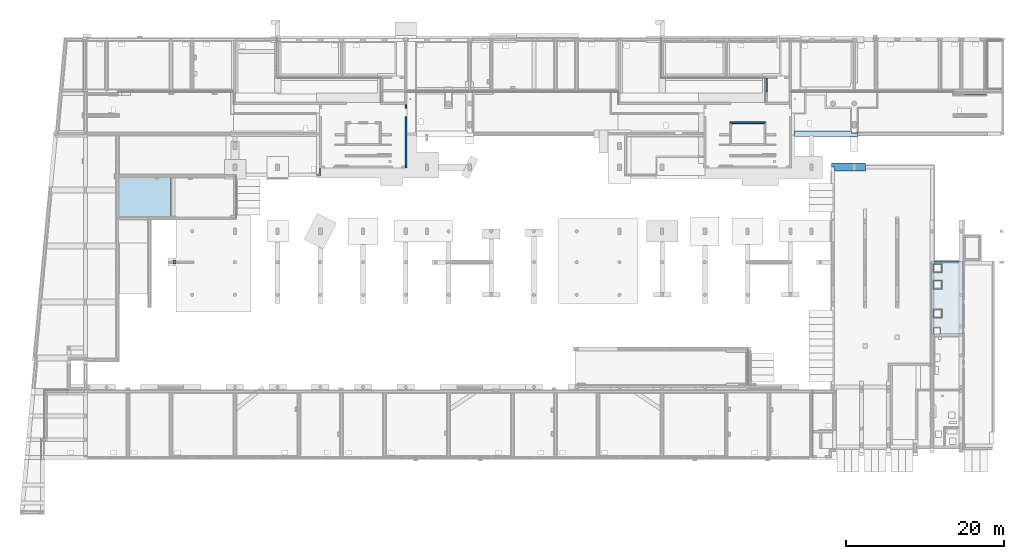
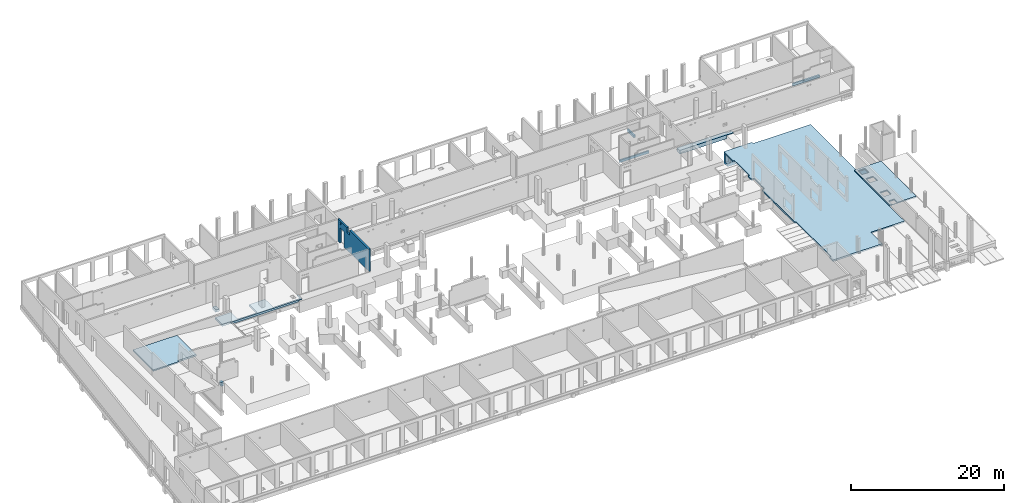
# One storey, part 59 of 60: 6 footings, 4 slabs, 2 walls.
"""IFC2X3 building model written with IfcOpenShell, lengths in millimetres."""

from ifc_helpers import new_model, entity, si_unit, converted_unit, derived_unit, direction, frame, frame_2d, origin, place, context, subcontext, project, spatial, rectangle, extrude, faceted_brep, material, layer, layer_set, type_object, element, save


model = new_model("IFC2X3")

# Units and contexts
model_context = context("Model", 3, precision=0.01, world=origin(), true_north=direction((6.12303176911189e-17, 1.0)))
body_context = subcontext(model_context, "Body", "Model", "MODEL_VIEW")
ifc_project = project(units=[si_unit("LENGTHUNIT", "METRE", prefix="MILLI"), si_unit("AREAUNIT", "SQUARE_METRE"), si_unit("VOLUMEUNIT", "CUBIC_METRE"), converted_unit("PLANEANGLEUNIT", "DEGREE", entity("IfcRatioMeasure", 0.0174532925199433), si_unit("PLANEANGLEUNIT", "RADIAN"), dimensions=[0, 0, 0, 0, 0, 0, 0]), si_unit("MASSUNIT", "GRAM", prefix="KILO"), derived_unit("MASSDENSITYUNIT", [(si_unit("MASSUNIT", "GRAM", prefix="KILO"), 1), (si_unit("LENGTHUNIT", "METRE"), -3)]), si_unit("TIMEUNIT", "SECOND"), si_unit("FREQUENCYUNIT", "HERTZ"), si_unit("THERMODYNAMICTEMPERATUREUNIT", "DEGREE_CELSIUS"), derived_unit("THERMALTRANSMITTANCEUNIT", [(si_unit("MASSUNIT", "GRAM", prefix="KILO"), 1), (si_unit("THERMODYNAMICTEMPERATUREUNIT", "KELVIN"), -1), (si_unit("TIMEUNIT", "SECOND"), -3)]), derived_unit("VOLUMETRICFLOWRATEUNIT", [(si_unit("LENGTHUNIT", "METRE"), 3), (si_unit("TIMEUNIT", "SECOND"), -1)]), si_unit("ELECTRICCURRENTUNIT", "AMPERE"), si_unit("ELECTRICVOLTAGEUNIT", "VOLT"), si_unit("POWERUNIT", "WATT"), si_unit("FORCEUNIT", "NEWTON", prefix="KILO"), si_unit("ILLUMINANCEUNIT", "LUX"), si_unit("LUMINOUSFLUXUNIT", "LUMEN"), si_unit("LUMINOUSINTENSITYUNIT", "CANDELA"), derived_unit("USERDEFINED", [(si_unit("MASSUNIT", "GRAM", prefix="KILO"), -1), (si_unit("LENGTHUNIT", "METRE"), -2), (si_unit("TIMEUNIT", "SECOND"), 3), (si_unit("LUMINOUSFLUXUNIT", "LUMEN"), 1)]), derived_unit("LINEARVELOCITYUNIT", [(si_unit("LENGTHUNIT", "METRE"), 1), (si_unit("TIMEUNIT", "SECOND"), -1)]), si_unit("PRESSUREUNIT", "PASCAL"), derived_unit("USERDEFINED", [(si_unit("LENGTHUNIT", "METRE"), -2), (si_unit("MASSUNIT", "GRAM", prefix="KILO"), 1), (si_unit("TIMEUNIT", "SECOND"), -2)])], contexts=[model_context])

# Site, building, storey
site_placement = place(None, origin())
site = spatial("IfcSite", under=ifc_project, at=site_placement, Name="Default", CompositionType="ELEMENT")
building_placement = place(site_placement, origin())
building = spatial("IfcBuilding", under=site, at=building_placement, Name="niet gebruiken", CompositionType="ELEMENT")
storey_placement = place(building_placement, origin())
storey = spatial("IfcBuildingStorey", under=building, at=storey_placement, Name="00 begane grond", CompositionType="ELEMENT", Elevation=0.0)

# Footings
ifc_material = material(Name="NLRS_f2_beton ihwg")
footing_1_placement = place(storey_placement, frame((19200.0, 24726.0, -800.0)))
element("IfcFooting", 1, at=footing_1_placement, inside=storey, material=ifc_material, Name="NLRS_16.12_SF_WPB_funderingsbalk ihwg recht_gen:500x600", ObjectType="NLRS_16.12_SF_WPB_funderingsbalk ihwg recht_gen:500x600", PredefinedType="FOOTING_BEAM", context=body_context, shape_type="Brep", body=[
    faceted_brep([(0.0, 500.0, 600.0), (0.0, 500.0, 0.0), (0.0, 0.0, 0.0), (0.0, 0.0, 600.0), (350.0, 500.0, 600.0), (350.0, 0.0, 600.0), (350.0, 0.0, 0.0), (350.0, 500.0, 0.0)], [[[0, 1, 2, 3]], [[4, 5, 6, 7]], [[1, 0, 4, 7]], [[2, 1, 7, 6]], [[3, 2, 6, 5]], [[0, 3, 5, 4]]]),
])
footing_2_placement = place(storey_placement, frame((97700.0, 40836.0, -1002.0)))
element("IfcFooting", 2, at=footing_2_placement, inside=storey, material=ifc_material, Name="NLRS_16.12_SF_WPB_funderingsbalk ihwg recht_gen:700x600", ObjectType="NLRS_16.12_SF_WPB_funderingsbalk ihwg recht_gen:700x600", PredefinedType="FOOTING_BEAM", context=body_context, shape_type="Brep", body=[
    faceted_brep([(0.0, 700.0, 0.0), (0.0, 700.0, 600.0), (7075.0, 700.0, 600.0), (7225.0, 700.0, 600.0), (7225.0, 700.0, 510.0), (7075.0, 700.0, 510.0), (7075.0, 700.0, 0.0), (0.0, 0.0, 0.0), (7075.0, 0.0, 0.0), (8075.0, 0.0, 600.0), (2450.0, 0.0, 600.0), (1950.0, 0.0, 600.0), (0.0, 0.0, 600.0), (7075.0, 0.0, 510.0), (8075.0, 0.0, 510.0), (8075.0, 100.0, 600.0), (8075.0, 600.0, 600.0), (7925.0, 600.0, 600.0), (7925.0, 495.0, 600.0), (7925.0, 475.0, 600.0), (7225.0, 475.0, 600.0), (7225.0, 495.0, 600.0), (0.0, 225.0, 600.0), (7225.0, 475.0, 510.0), (7925.0, 475.0, 510.0), (7925.0, 600.0, 510.0), (8075.0, 600.0, 510.0)], [[[0, 1, 2, 3, 4, 5, 6]], [[7, 0, 6, 8]], [[9, 10, 11, 12, 7, 8, 13, 14]], [[12, 11, 10, 9, 15, 16, 17, 18, 19, 20, 21, 3, 2, 1, 22]], [[7, 12, 22, 1, 0]], [[13, 5, 4, 23, 24, 25, 26, 14]], [[6, 5, 13, 8]], [[24, 19, 18, 17, 25]], [[19, 24, 23, 20]], [[20, 23, 4, 3, 21]], [[17, 16, 26, 25]], [[9, 14, 26, 16, 15]]]),
])
footing_3_placement = place(storey_placement, frame((117860.0, 46141.0, -492.0)))
element("IfcFooting", 3, at=footing_3_placement, inside=storey, material=ifc_material, Name="NLRS_16.12_SF_WPB_opstort ihwg recht_gen:250x422", ObjectType="NLRS_16.12_SF_WPB_opstort ihwg recht_gen:250x422", PredefinedType="FOOTING_BEAM", context=body_context, shape_type="Brep", body=[
    faceted_brep([(0.0, 0.0, 422.0), (0.0, 250.0, 422.0), (0.0, 250.0, 90.0), (0.0, 250.0, 0.0), (0.0, 35.0, 0.0), (0.0, 35.0, 90.0), (0.0, 0.0, 90.0), (4060.0, 250.0, 422.0), (4060.0, 0.0, 422.0), (4060.0, 0.0, 90.0), (4060.0, 250.0, 90.0), (4040.0, 250.0, 90.0), (4040.0, 250.0, 0.0), (4040.0, 35.0, 0.0), (4040.0, 35.0, 90.0)], [[[0, 1, 2, 3, 4, 5, 6]], [[7, 8, 9, 10]], [[1, 7, 10, 11, 12, 3, 2]], [[4, 3, 12, 13]], [[8, 0, 6, 9]], [[1, 0, 8, 7]], [[5, 14, 11, 10, 9, 6]], [[14, 5, 4, 13]], [[14, 13, 12, 11]]]),
])
footing_4_placement = place(storey_placement, frame((89575.0, 42496.0, -550.0)))
element("IfcFooting", 4, at=footing_4_placement, inside=storey, material=ifc_material, Name="NLRS_16.12_SF_WPB_opstort ihwg recht_gen:200x390", ObjectType="NLRS_16.12_SF_WPB_opstort ihwg recht_gen:200x390", PredefinedType="FOOTING_BEAM", context=body_context, shape_type="Brep", body=[
    faceted_brep([(0.0, 200.0, 390.0), (0.0, 200.0, 0.0), (0.0, 0.0, 0.0), (0.0, 0.0, 390.0), (4450.0, 200.0, 390.0), (4450.0, 0.0, 390.0), (4450.0, 0.0, 0.0), (4450.0, 200.0, 0.0)], [[[0, 1, 2, 3]], [[4, 5, 6, 7]], [[1, 0, 4, 7]], [[2, 1, 7, 6]], [[3, 2, 6, 5]], [[0, 3, 5, 4]]]),
])
footing_5_placement = place(storey_placement, frame((94025.0, 46496.0, -550.0)))
element("IfcFooting", 5, at=footing_5_placement, inside=storey, material=ifc_material, Name="NLRS_16.12_SF_WPB_opstort ihwg recht_gen:250x390", ObjectType="NLRS_16.12_SF_WPB_opstort ihwg recht_gen:250x390", PredefinedType="FOOTING_BEAM", context=body_context, shape_type="Brep", body=[
    faceted_brep([(250.0, 1730.0, 390.0), (250.0, 1730.0, 0.0), (0.0, 1730.0, 0.0), (0.0, 1730.0, 390.0), (250.0, 0.0, 390.0), (0.0, 0.0, 390.0), (0.0, 0.0, 0.0), (250.0, 0.0, 0.0)], [[[0, 1, 2, 3]], [[4, 5, 6, 7]], [[1, 0, 4, 7]], [[2, 1, 7, 6]], [[3, 2, 6, 5]], [[0, 3, 5, 4]]]),
])
footing_6_placement = place(storey_placement, frame((102400.0, 36481.0, -2000.0)))
element("IfcFooting", 6, at=footing_6_placement, inside=storey, material=ifc_material, Name="NLRS_16.12_SF_WPB_funderingsbalk ihwg recht_gen:1000x1800", ObjectType="NLRS_16.12_SF_WPB_funderingsbalk ihwg recht_gen:1000x1800", PredefinedType="FOOTING_BEAM", context=body_context, shape_type="Brep", body=[
    faceted_brep([(4275.0, 1.42332055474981e-08, 0.0), (4275.0, 1000.0, 0.0), (4275.0, 1000.0, 1550.0), (4275.0, 700.0, 1550.0), (4275.0, 300.0, 1550.0), (4275.0, 1.42332055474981e-08, 1550.0), (4275.0, 1.42332055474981e-08, 400.0), (4275.0, 1.42332055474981e-08, 150.0), (0.0, 1000.0, 1550.0), (0.0, 1000.0, 0.0), (3.30924194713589e-09, 0.0, 0.0), (3.30924194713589e-09, 0.0, 150.0), (3.30924194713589e-09, 0.0, 400.0), (1.64595803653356e-09, 500.0, 400.0), (1.64595803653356e-09, 500.0, 1550.0), (400.0, 1.33409230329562e-09, 1550.0), (400.0, 1.33409230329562e-09, 400.0), (400.0, 500.0, 1550.0), (400.0, 500.0, 400.0)], [[[0, 1, 2, 3, 4, 5, 6, 7]], [[8, 9, 10, 11, 12, 13, 14]], [[10, 0, 7, 6, 5, 15, 16, 12, 11]], [[1, 0, 10, 9]], [[2, 1, 9, 8]], [[5, 4, 3, 2, 8, 14, 17, 15]], [[17, 18, 16, 15]], [[18, 13, 12, 16]], [[18, 17, 14, 13]]]),
])

# Slabs
slab_1_placement = place(storey_placement, origin())
element("IfcSlab", 7, at=slab_1_placement, inside=storey, material=ifc_material, Name="Floor:NLRS_23.21_FL_breedplaat d=70/250_opgeruwd_schil apart_gen", ObjectType="Floor:NLRS_23.21_FL_breedplaat d=70/250_opgeruwd_schil apart_gen", PredefinedType="FLOOR", context=body_context, shape_type="Brep", body=[
    faceted_brep([(12275.0, 35756.0, 550.0), (18900.0, 35756.0, 550.0), (18900.0, 35736.0, 550.0), (12295.0, 35736.0, 550.0), (12295.0, 30656.0, 550.0), (16055.0, 30656.0, 550.0), (16055.0, 30696.0, 550.0), (18900.0, 30696.0, 550.0), (18900.0, 30676.0, 550.0), (16075.0, 30676.0, 550.0), (16075.0, 30446.0, 550.0), (12275.0, 30446.0, 550.0), (18900.0, 35756.0, 800.0), (12275.0, 35756.0, 800.0), (12275.0, 30426.0, 800.0), (16075.0, 30426.0, 800.0), (16075.0, 30676.0, 800.0), (18900.0, 30676.0, 800.0), (18900.0, 30696.0, 620.0), (18900.0, 35736.0, 620.0), (12275.0, 30426.0, 619.109367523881), (16075.0, 30426.0, 619.109367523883), (12275.0, 30446.0, 617.109430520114), (16075.0, 30446.0, 617.109430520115), (12295.0, 30656.0, 620.0), (12295.0, 35736.0, 620.0), (16055.0, 30696.0, 620.0), (16055.0, 30656.0, 620.0)], [[[0, 1, 2, 3, 4, 5, 6, 7, 8, 9, 10, 11]], [[12, 13, 14, 15, 16, 17]], [[1, 0, 13, 12]], [[12, 17, 8, 7, 18, 19, 2, 1]], [[15, 14, 20, 21]], [[14, 13, 0, 11, 22, 20]], [[9, 8, 17, 16]], [[16, 15, 21, 23, 10, 9]], [[24, 25, 19, 18, 26, 27]], [[19, 25, 3, 2]], [[24, 27, 5, 4]], [[25, 24, 4, 3]], [[26, 18, 7, 6]], [[27, 26, 6, 5]], [[22, 23, 21, 20]], [[23, 22, 11, 10]]]),
])
slab_2_placement = place(storey_placement, origin())
element("IfcSlab", 8, at=slab_2_placement, inside=storey, Name="Floor:NLRS_23.21_FL_breedplaat d=70/250_schil apart_gen", ObjectType="Floor:NLRS_23.21_FL_breedplaat d=70/250_schil apart_gen", PredefinedType="FLOOR", context=body_context, shape_type="Brep", body=[
    faceted_brep([(106675.0, 37181.0, -450.0), (115325.0, 37181.0, -450.0), (115325.0, 36781.0, -450.0), (115325.0, 30336.0, -450.0), (115325.0, 25101.0, -450.0), (114950.0, 25101.0, -450.0), (114950.0, 24426.0, -450.0), (114950.0, 22976.0, -450.0), (114950.0, 19446.0, -450.0), (114950.0, 17996.0, -450.0), (114950.0, 11971.0, -450.0), (114825.0, 11971.0, -450.0), (113175.000370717, 11971.0, -450.0), (109850.0, 11971.0, -450.0), (109850.0, 8946.0, -450.0), (109350.000370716, 8946.0, -450.0), (106450.000370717, 8946.0, -450.0), (105950.000370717, 8946.0, -450.0), (103050.0, 8946.0, -450.0), (102400.0, 8946.0, -450.0), (102400.0, 9446.0, -450.0), (102400.0, 9850.0, -450.0), (102600.0, 9850.0, -450.0), (102600.0, 18926.0, -450.0), (102400.0, 18926.0, -450.0), (102400.0, 27531.0, -450.0), (102780.0, 27531.0, -450.0), (102780.0, 9426.0, -450.0), (105960.000370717, 9426.0, -450.0), (105960.000370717, 9936.0, -450.0), (106440.000370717, 9936.0, -450.0), (106440.000370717, 9426.0, -450.0), (109360.000370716, 9426.0, -450.0), (109360.000370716, 9936.0, -450.0), (109620.000370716, 9936.0, -450.0), (109620.000370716, 12201.0, -450.0), (114845.0, 12201.0, -450.0), (114845.0, 30316.0, -450.0), (114945.0, 30316.0, -450.0), (114945.0, 36801.0, -450.0), (106655.0, 36801.0, -450.0), (106655.0, 36501.0, -450.0), (102780.0, 36501.0, -450.0), (102780.0, 30231.0, -450.0), (102400.0, 30231.0, -450.0), (102400.0, 31156.0, -450.0), (102600.0, 31156.0, -450.0), (102600.0, 35056.0, -450.0), (102400.0, 35056.0, -450.0), (102400.0, 36981.0, -450.0), (102400.0, 37481.0, -450.0), (106675.0, 37481.0, -450.0), (115325.0, 37181.0, -200.0), (106675.0, 37181.0, -200.0), (106675.0, 37481.0, -200.0), (102400.0, 37481.0, -200.0), (102400.0, 35056.0, -200.0), (102600.0, 35056.0, -200.0), (102600.0, 31156.0, -200.0), (102400.0, 31156.0, -200.0), (102400.0, 30231.0, -200.0), (102800.0, 30231.0, -200.0), (102800.0, 27531.0, -200.0), (102400.0, 27531.0, -200.0), (102400.0, 25276.0, -200.0), (102400.0, 24676.0, -200.0), (102400.0, 18926.0, -200.0), (102600.0, 18926.0, -200.0), (102600.0, 9850.0, -200.0), (102400.0, 9850.0, -200.0), (102400.0, 8946.0, -200.0), (102675.0, 8946.0, -200.0), (103050.0, 8946.0, -200.0), (109850.0, 8946.0, -200.0), (109850.0, 11971.0, -200.0), (113175.000370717, 11971.0, -200.0), (114950.0, 11971.0, -200.0), (114950.0, 25101.0, -200.0), (115325.0, 25101.0, -200.0), (115325.0, 25101.0, -250.0), (114950.0, 25101.0, -250.0), (114950.0, 11971.0, -300.0), (102800.0, 27531.0, -380.0), (102780.0, 27531.0, -380.0), (102800.0, 30231.0, -380.0), (102780.0, 30231.0, -380.0), (106655.0, 36501.0, -380.0), (106655.0, 36801.0, -380.0), (114945.0, 36801.0, -380.0), (114945.0, 30316.0, -380.0), (114845.0, 30316.0, -380.0), (114845.0, 12201.0, -380.0), (109620.000370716, 12201.0, -380.0), (109620.000370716, 9936.0, -380.0), (109360.000370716, 9936.0, -380.0), (109360.000370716, 9426.0, -380.0), (106440.000370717, 9426.0, -380.0), (106440.000370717, 9936.0, -380.0), (105960.000370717, 9936.0, -380.0), (105960.000370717, 9426.0, -380.0), (102780.0, 9426.0, -380.0), (102780.0, 36501.0, -380.0), (106470.0, 31706.0, -380.0), (106470.0, 19196.0, -380.0), (106830.0, 19196.0, -380.0), (106830.0, 31706.0, -380.0), (110520.0, 30656.0, -380.0), (110520.0, 19196.0, -380.0), (110880.0, 19196.0, -380.0), (110880.0, 30656.0, -380.0), (106350.0, 14091.0, -380.0), (106950.0, 14091.0, -380.0), (106950.0, 14691.0, -380.0), (106350.0, 14691.0, -380.0), (111000.0, 15176.0, -380.0), (111000.0, 15776.0, -380.0), (110400.0, 15776.0, -380.0), (110400.0, 15176.0, -380.0), (106470.0, 19196.0, -450.0), (106830.0, 19196.0, -450.0), (106830.0, 31706.0, -450.0), (106470.0, 31706.0, -450.0), (110520.0, 19196.0, -450.0), (110880.0, 19196.0, -450.0), (110880.0, 30656.0, -450.0), (110520.0, 30656.0, -450.0), (106950.0, 14091.0, -450.0), (106950.0, 14691.0, -450.0), (106350.0, 14691.0, -450.0), (106350.0, 14091.0, -450.0), (111000.0, 15776.0, -450.0), (110400.0, 15776.0, -450.0), (110400.0, 15176.0, -450.0), (111000.0, 15176.0, -450.0)], [[[0, 1, 2, 3, 4, 5, 6, 7, 8, 9, 10, 11, 12, 13, 14, 15, 16, 17, 18, 19, 20, 21, 22, 23, 24, 25, 26, 27, 28, 29, 30, 31, 32, 33, 34, 35, 36, 37, 38, 39, 40, 41, 42, 43, 44, 45, 46, 47, 48, 49, 50, 51]], [[52, 53, 54, 55, 56, 57, 58, 59, 60, 61, 62, 63, 64, 65, 66, 67, 68, 69, 70, 71, 72, 73, 74, 75, 76, 77, 78]], [[1, 0, 53, 52]], [[4, 3, 2, 1, 52, 78, 79]], [[5, 4, 79, 78, 77, 80]], [[19, 18, 17, 16, 15, 14, 73, 72, 71, 70]], [[13, 12, 11, 10, 81, 76, 75, 74]], [[14, 13, 74, 73]], [[45, 44, 60, 59]], [[46, 45, 59, 58]], [[21, 20, 19, 70, 69]], [[22, 21, 69, 68]], [[23, 22, 68, 67]], [[24, 23, 67, 66]], [[47, 46, 58, 57]], [[48, 47, 57, 56]], [[25, 24, 66, 65, 64, 63]], [[63, 62, 82, 83, 26, 25]], [[62, 61, 84, 82]], [[61, 60, 44, 43, 85, 84]], [[51, 50, 55, 54]], [[0, 51, 54, 53]], [[50, 49, 48, 56, 55]], [[86, 87, 88, 89, 90, 91, 92, 93, 94, 95, 96, 97, 98, 99, 100, 83, 82, 84, 85, 101], [102, 103, 104, 105], [106, 107, 108, 109], [110, 111, 112, 113], [114, 115, 116, 117]], [[88, 87, 40, 39]], [[100, 99, 28, 27]], [[92, 91, 36, 35]], [[93, 92, 35, 34]], [[86, 101, 42, 41]], [[87, 86, 41, 40]], [[100, 27, 26, 83]], [[91, 90, 37, 36]], [[104, 103, 118, 119]], [[105, 104, 119, 120]], [[102, 105, 120, 121]], [[103, 102, 121, 118]], [[108, 107, 122, 123]], [[109, 108, 123, 124]], [[106, 109, 124, 125]], [[107, 106, 125, 122]], [[112, 111, 126, 127]], [[113, 112, 127, 128]], [[110, 113, 128, 129]], [[111, 110, 129, 126]], [[116, 115, 130, 131]], [[117, 116, 131, 132]], [[114, 117, 132, 133]], [[115, 114, 133, 130]], [[10, 9, 8, 7, 6, 5, 80, 77, 76, 81]], [[89, 88, 39, 38]], [[90, 89, 38, 37]], [[96, 95, 32, 31]], [[97, 96, 31, 30]], [[98, 97, 30, 29]], [[99, 98, 29, 28]], [[94, 93, 34, 33]], [[95, 94, 33, 32]], [[42, 101, 85, 43]], [[119, 118, 121, 120]], [[127, 126, 129, 128]], [[131, 130, 133, 132]], [[123, 122, 125, 124]]]),
])
slab_3_placement = place(storey_placement, origin())
element("IfcSlab", 9, at=slab_3_placement, inside=storey, material=ifc_material, Name="Floor:NLRS_13.22_FL_beton ihwg d=332_gen", ObjectType="Floor:NLRS_13.22_FL_beton ihwg d=332_gen", PredefinedType="FLOOR", context=body_context, shape_type="SolidModel", body=[
    extrude(rectangle(XDim=539.999999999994, YDim=890.000000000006, at=frame_2d((-2.1600499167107e-12, 0.0), x_axis=(1.0, 0.0))), frame((27025.0, 39656.0, -402.0), z_axis=(0.0, 0.0, 1.0), x_axis=(-1.0, 0.0, 0.0)), (0.0, 0.0, 1.0), 332.0),
    faceted_brep([(28225.0, 36106.0, -70.0), (28225.0, 37821.0, -70.0), (25860.0, 37821.0, -70.0), (25860.0, 36006.0, -70.0), (27150.0, 36006.0, -70.0), (27150.0, 35856.0, -70.0), (37825.0, 35856.0, -70.0), (37825.0, 36856.0, -70.0), (37675.0, 36856.0, -70.0), (37675.0, 36106.0, -70.0), (33600.0, 36106.0, -70.0), (33600.0, 38181.0, -70.0), (31200.0, 38181.0, -70.0), (31200.0, 36106.0, -70.0), (28225.0, 36106.0, -402.0), (28225.0, 37821.0, -402.0), (31200.0, 36106.0, -402.0), (31200.0, 38181.0, -402.0), (33600.0, 38181.0, -402.0), (33600.0, 36106.0, -402.0), (37675.0, 36106.0, -200.0), (37300.0, 36106.0, -200.0), (37300.0, 36106.0, -402.0), (37825.0, 35856.0, -200.0), (37825.0, 36856.0, -200.0), (27150.0, 35856.0, -402.0), (37300.0, 35856.0, -402.0), (37300.0, 35856.0, -200.0), (27150.0, 36006.0, -402.0), (27150.0, 36006.0, -372.0), (25860.0, 36006.0, -402.0), (26850.0, 36006.0, -402.0), (25860.0, 37821.0, -402.0), (37675.0, 36856.0, -200.0), (37675.0, 36126.0, -200.0)], [[[0, 1, 2, 3, 4, 5, 6, 7, 8, 9, 10, 11, 12, 13]], [[14, 15, 1, 0]], [[16, 14, 0, 13]], [[17, 16, 13, 12]], [[18, 17, 12, 11]], [[19, 18, 11, 10]], [[10, 9, 20, 21, 22, 19]], [[7, 6, 23, 24]], [[6, 5, 25, 26, 27, 23]], [[28, 25, 5, 4, 29]], [[30, 31, 28, 29, 4, 3]], [[32, 30, 3, 2]], [[15, 32, 2, 1]], [[9, 8, 33, 34, 20]], [[8, 7, 24, 33]], [[27, 21, 20, 34, 33, 24, 23]], [[21, 27, 26, 22]], [[15, 14, 16, 17, 18, 19, 22, 26, 25, 28, 31, 30, 32]]]),
])
slab_4_placement = place(storey_placement, origin())
element("IfcSlab", 10, at=slab_4_placement, inside=storey, Name="Floor:NLRS_23.21_FL_breedplaat d=70/250_schil apart_gen", ObjectType="Floor:NLRS_23.21_FL_breedplaat d=70/250_schil apart_gen", PredefinedType="FLOOR", context=body_context, shape_type="Brep", body=[
    faceted_brep([(119000.0, 25101.0, -250.0), (119000.0, 24976.0, -250.0), (119000.0, 15876.0, -250.0), (118520.0, 15876.0, -250.0), (118520.0, 24871.0, -250.0), (115305.0, 24871.0, -250.0), (115305.0, 15876.0, -250.0), (114950.0, 15876.0, -250.0), (114950.0, 25101.0, -250.0), (115325.0, 25101.0, -250.0), (118500.0, 25101.0, -250.0), (119000.0, 15876.0, 0.0), (119000.0, 25101.0, 0.0), (114950.0, 25101.0, 0.0), (114950.0, 15876.0, 0.0), (115285.0, 15876.0, 0.0), (115285.0, 16736.0, 0.0), (116165.0, 16736.0, 0.0), (116165.0, 15876.0, 0.0), (116365.0, 17936.0, 0.0), (115285.0, 17936.0, 0.0), (115285.0, 19016.0, 0.0), (116365.0, 19016.0, 0.0), (116365.0, 21561.0, 0.0), (115285.0, 21561.0, 0.0), (115285.0, 22641.0, 0.0), (116365.0, 22641.0, 0.0), (116365.0, 23661.0, 0.0), (115285.0, 23661.0, 0.0), (115285.0, 24741.0, 0.0), (116365.0, 24741.0, 0.0), (116165.0, 15876.0, -40.0), (115285.0, 15876.0, -40.0), (114950.0, 15876.0, -200.0), (115305.0, 15876.0, -180.0), (118520.0, 15876.0, -180.0), (114950.0, 25101.0, -200.0), (118520.0, 24871.0, -180.0), (115305.0, 24871.0, -180.0), (116125.0, 15896.0, -180.0), (116125.0, 16696.0, -180.0), (115325.0, 16696.0, -180.0), (115325.0, 15896.0, -180.0), (115325.0, 17976.0, -180.0), (116325.0, 17976.0, -180.0), (116325.0, 18976.0, -180.0), (115325.0, 18976.0, -180.0), (115325.0, 21601.0, -180.0), (116325.0, 21601.0, -180.0), (116325.0, 22601.0, -180.0), (115325.0, 22601.0, -180.0), (115325.0, 23701.0, -180.0), (116325.0, 23701.0, -180.0), (116325.0, 24701.0, -180.0), (115325.0, 24701.0, -180.0), (115325.0, 15896.0, -40.0), (116125.0, 15896.0, -40.0), (116125.0, 16696.0, -40.0), (115325.0, 16696.0, -40.0), (115325.0, 17976.0, -40.0), (116325.0, 17976.0, -40.0), (116325.0, 18976.0, -40.0), (115325.0, 18976.0, -40.0), (115325.0, 21601.0, -40.0), (116325.0, 21601.0, -40.0), (116325.0, 22601.0, -40.0), (115325.0, 22601.0, -40.0), (115325.0, 23701.0, -40.0), (116325.0, 23701.0, -40.0), (116325.0, 24701.0, -40.0), (115325.0, 24701.0, -40.0), (115285.0, 17936.0, -40.0), (116365.0, 17936.0, -40.0), (116365.0, 19016.0, -40.0), (115285.0, 19016.0, -40.0), (115285.0, 21561.0, -40.0), (116365.0, 21561.0, -40.0), (116365.0, 22641.0, -40.0), (115285.0, 22641.0, -40.0), (115285.0, 23661.0, -40.0), (116365.0, 23661.0, -40.0), (116365.0, 24741.0, -40.0), (115285.0, 24741.0, -40.0), (116165.0, 16736.0, -40.0), (115285.0, 16736.0, -40.0)], [[[0, 1, 2, 3, 4, 5, 6, 7, 8, 9, 10]], [[11, 12, 13, 14, 15, 16, 17, 18], [19, 20, 21, 22], [23, 24, 25, 26], [27, 28, 29, 30]], [[2, 1, 0, 12, 11]], [[2, 11, 18, 31, 32, 15, 14, 33, 7, 6, 34, 35, 3]], [[8, 7, 33, 14, 13, 36]], [[13, 12, 0, 10, 9, 8, 36]], [[37, 35, 34, 38], [39, 40, 41, 42], [43, 44, 45, 46], [47, 48, 49, 50], [51, 52, 53, 54]], [[38, 34, 6, 5]], [[37, 38, 5, 4]], [[35, 37, 4, 3]], [[39, 42, 55, 56]], [[40, 39, 56, 57]], [[41, 40, 57, 58]], [[42, 41, 58, 55]], [[44, 43, 59, 60]], [[45, 44, 60, 61]], [[46, 45, 61, 62]], [[43, 46, 62, 59]], [[48, 47, 63, 64]], [[49, 48, 64, 65]], [[50, 49, 65, 66]], [[47, 50, 66, 63]], [[52, 51, 67, 68]], [[53, 52, 68, 69]], [[54, 53, 69, 70]], [[51, 54, 70, 67]], [[71, 72, 73, 74], [60, 59, 62, 61]], [[72, 71, 20, 19]], [[73, 72, 19, 22]], [[74, 73, 22, 21]], [[71, 74, 21, 20]], [[75, 76, 77, 78], [64, 63, 66, 65]], [[76, 75, 24, 23]], [[77, 76, 23, 26]], [[78, 77, 26, 25]], [[75, 78, 25, 24]], [[79, 80, 81, 82], [68, 67, 70, 69]], [[80, 79, 28, 27]], [[81, 80, 27, 30]], [[82, 81, 30, 29]], [[79, 82, 29, 28]], [[83, 84, 32, 31], [56, 55, 58, 57]], [[17, 83, 31, 18]], [[84, 83, 17, 16]], [[84, 16, 15, 32]]]),
])

# Walls
ifc_layer_1 = layer(ifc_material, 250.0)
ifc_layer_set_1 = layer_set([ifc_layer_1], Name="Basic Wall:NLRS_22.21_WA_beton ihwg d=250_gen")
wall_type_1 = type_object("IfcWallType", Name="Basic Wall:NLRS_22.21_WA_beton ihwg d=250_gen", PredefinedType="STANDARD", material=ifc_layer_set_1)
wall_1_placement = place(storey_placement, frame((48600.0, 44906.0, -90.0), z_axis=(0.0, 0.0, 1.0), x_axis=(0.0, -1.0, 0.0)))
element("IfcWall", 11, at=wall_1_placement, inside=storey, type_object=wall_type_1, Name="Basic Wall:NLRS_22.21_WA_beton ihwg d=250_gen", ObjectType="Basic Wall:NLRS_22.21_WA_beton ihwg d=250_gen", context=body_context, shape_type="Brep", body=[
    faceted_brep([(0.0, -125.0, 0.0), (495.0, -125.0, 0.0), (495.0, -125.0, 2470.0), (1520.0, -125.0, 2470.0), (1520.0, -125.0, 0.0), (7800.0, -125.0, 0.0), (8050.0, -125.0, 0.0), (8050.0, -125.0, 2950.0), (8050.0, -125.0, 3560.0), (7800.0, -125.0, 3560.0), (3020.0, -125.0, 3560.0), (3020.0, -125.0, 2790.0), (2320.0, -125.0, 2790.0), (2320.0, -125.0, 3560.0), (0.0, -125.0, 3560.0), (0.0, -125.0, 3440.0), (475.0, -125.0, 3340.0), (865.0, -125.0, 3340.0), (865.0, -125.0, 3200.0), (475.0, -125.0, 3200.0), (500.0, -125.0, 3070.0), (840.0, -125.0, 3070.0), (840.0, -125.0, 2970.0), (500.0, -125.0, 2970.0), (495.0, 125.0, 0.0), (0.0, 125.0, 0.0), (0.0, 125.0, 3440.0), (0.0, 125.0, 3560.0), (2320.0, 125.0, 3560.0), (2320.0, 125.0, 2790.0), (3020.0, 125.0, 2790.0), (3020.0, 125.0, 3560.0), (8050.0, 125.0, 3560.0), (8050.0, 125.0, 2950.0), (8050.0, 125.0, 0.0), (1520.0, 125.0, 0.0), (1520.0, 125.0, 2470.0), (495.0, 125.0, 2470.0), (865.0, 125.0, 3340.0), (475.0, 125.0, 3340.0), (475.0, 125.0, 3200.0), (865.0, 125.0, 3200.0), (840.0, 125.0, 3070.0), (500.0, 125.0, 3070.0), (500.0, 125.0, 2970.0), (840.0, 125.0, 2970.0), (0.0, -105.0, 3560.0)], [[[0, 1, 2, 3, 4, 5, 6, 7, 8, 9, 10, 11, 12, 13, 14, 15], [16, 17, 18, 19], [20, 21, 22, 23]], [[24, 25, 26, 27, 28, 29, 30, 31, 32, 33, 34, 35, 36, 37], [38, 39, 40, 41], [42, 43, 44, 45]], [[0, 25, 24, 1]], [[25, 0, 15, 14, 46, 27, 26]], [[37, 2, 1, 24]], [[2, 37, 36, 3]], [[3, 36, 35, 4]], [[6, 34, 33, 32, 8, 7]], [[14, 13, 28, 27, 46]], [[16, 39, 38, 17]], [[18, 41, 40, 19]], [[17, 38, 41, 18]], [[39, 16, 19, 40]], [[11, 30, 29, 12]], [[30, 11, 10, 31]], [[12, 29, 28, 13]], [[20, 43, 42, 21]], [[22, 45, 44, 23]], [[21, 42, 45, 22]], [[43, 20, 23, 44]], [[10, 9, 8, 32, 31]], [[6, 5, 4, 35, 34]]]),
])
ifc_layer_2 = layer(ifc_material, 250.0)
ifc_layer_set_2 = layer_set([ifc_layer_2], Name="Basic Wall:NLRS_16.21_WA_beton ihwg d=250_gen")
wall_type_2 = type_object("IfcWallType", Name="Basic Wall:NLRS_16.21_WA_beton ihwg d=250_gen", PredefinedType="STANDARD", material=ifc_layer_set_2)
wall_2_placement = place(storey_placement, frame((115325.0, 24976.0, -1750.0)))
element("IfcWall", 12, at=wall_2_placement, inside=storey, type_object=wall_type_2, Name="Basic Wall:NLRS_16.21_WA_beton ihwg d=250_gen", ObjectType="Basic Wall:NLRS_16.21_WA_beton ihwg d=250_gen", context=body_context, shape_type="Brep", body=[
    faceted_brep([(0.0, -125.0, 150.0), (1354.2944763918, -125.0, 1092.72593389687), (1335.0, -125.0, 1100.71796769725), (0.0, -125.0, 0.0), (1318.43145750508, -125.0, 1113.43145750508), (1305.71796769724, -125.0, 1130.0), (1297.72593389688, -125.0, 1149.2944763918), (0.0, -125.0, 1500.0), (1375.0, -125.0, 1090.0), (3175.0, -125.0, 0.0), (1395.70552360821, -125.0, 1092.72593389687), (1954.2944763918, -125.0, 1092.72593389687), (1975.0, -125.0, 1090.0), (1995.70552360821, -125.0, 1092.72593389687), (2015.0, -125.0, 1100.71796769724), (2031.56854249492, -125.0, 1113.43145750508), (2044.28203230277, -125.0, 1130.0), (3175.0, -125.0, 1500.0), (1375.0, -125.0, 1250.0), (2052.27406610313, -125.0, 1149.2944763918), (1975.0, -125.0, 1250.0), (1995.70552360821, -125.0, 1247.27406610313), (2015.0, -125.0, 1239.28203230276), (2031.56854249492, -125.0, 1226.56854249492), (2044.28203230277, -125.0, 1210.0), (2052.27406610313, -125.0, 1190.7055236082), (2055.0, -125.0, 1170.0), (1415.0, -125.0, 1100.71796769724), (1935.0, -125.0, 1100.71796769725), (1918.43145750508, -125.0, 1113.43145750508), (1431.56854249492, -125.0, 1113.43145750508), (1444.28203230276, -125.0, 1130.0), (1905.71796769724, -125.0, 1130.0), (1452.27406610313, -125.0, 1149.2944763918), (1897.72593389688, -125.0, 1149.2944763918), (1455.0, -125.0, 1170.0), (1895.0, -125.0, 1170.0), (1452.27406610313, -125.0, 1190.7055236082), (1897.72593389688, -125.0, 1190.7055236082), (1444.28203230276, -125.0, 1210.0), (1905.71796769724, -125.0, 1210.0), (1431.56854249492, -125.0, 1226.56854249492), (1918.43145750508, -125.0, 1226.56854249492), (1415.0, -125.0, 1239.28203230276), (1935.0, -125.0, 1239.28203230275), (1395.70552360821, -125.0, 1247.27406610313), (1954.2944763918, -125.0, 1247.27406610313), (1295.0, -125.0, 1170.0), (1297.72593389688, -125.0, 1190.7055236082), (1305.71796769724, -125.0, 1210.0), (1318.43145750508, -125.0, 1226.56854249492), (1335.0, -125.0, 1239.28203230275), (1354.2944763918, -125.0, 1247.27406610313), (3175.0, 125.0, 50.0), (1975.0, 125.0, 1090.0), (1995.70552360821, 125.0, 1092.72593389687), (3175.0, 125.0, 0.0), (2015.0, 125.0, 1100.71796769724), (2031.56854249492, 125.0, 1113.43145750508), (2044.28203230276, 125.0, 1130.0), (3175.0, 125.0, 1500.0), (1954.2944763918, 125.0, 1092.72593389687), (1395.70552360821, 125.0, 1092.72593389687), (150.0, 125.0, 0.0), (1375.0, 125.0, 1090.0), (1354.29447639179, 125.0, 1092.72593389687), (150.0, 125.0, 150.0), (1335.0, 125.0, 1100.71796769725), (1318.43145750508, 125.0, 1113.43145750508), (1305.71796769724, 125.0, 1130.0), (0.0, 125.0, 1300.0), (0.0, 125.0, 150.0), (1297.72593389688, 125.0, 1149.2944763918), (1295.0, 125.0, 1170.0), (1297.72593389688, 125.0, 1190.7055236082), (0.0, 125.0, 1500.0), (1375.0, 125.0, 1250.0), (1354.29447639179, 125.0, 1247.27406610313), (1305.71796769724, 125.0, 1210.0), (1318.43145750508, 125.0, 1226.56854249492), (1335.0, 125.0, 1239.28203230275), (1415.0, 125.0, 1100.71796769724), (1935.0, 125.0, 1100.71796769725), (1918.43145750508, 125.0, 1113.43145750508), (1431.56854249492, 125.0, 1113.43145750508), (1444.28203230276, 125.0, 1130.0), (1905.71796769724, 125.0, 1130.0), (1452.27406610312, 125.0, 1149.2944763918), (1897.72593389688, 125.0, 1149.2944763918), (1455.0, 125.0, 1170.0), (1895.0, 125.0, 1170.0), (1452.27406610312, 125.0, 1190.7055236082), (1897.72593389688, 125.0, 1190.7055236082), (1444.28203230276, 125.0, 1210.0), (1905.71796769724, 125.0, 1210.0), (1431.56854249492, 125.0, 1226.56854249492), (1918.43145750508, 125.0, 1226.56854249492), (1415.0, 125.0, 1239.28203230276), (1935.0, 125.0, 1239.28203230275), (1395.70552360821, 125.0, 1247.27406610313), (1954.2944763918, 125.0, 1247.27406610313), (1975.0, 125.0, 1250.0), (2052.27406610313, 125.0, 1149.2944763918), (2055.0, 125.0, 1170.0), (2052.27406610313, 125.0, 1190.7055236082), (2044.28203230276, 125.0, 1210.0), (2031.56854249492, 125.0, 1226.56854249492), (2015.0, 125.0, 1239.28203230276), (1995.70552360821, 125.0, 1247.27406610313), (150.0, -50.0, 0.0), (0.0, -50.0, 0.0), (3175.0, 0.0, 1500.0), (0.0, -50.0, 150.0), (150.0, -50.0, 150.0)], [[[0, 1, 2]], [[1, 0, 3]], [[0, 2, 4]], [[4, 5, 0]], [[5, 6, 0]], [[0, 6, 7]], [[8, 1, 3]], [[3, 9, 8]], [[9, 10, 8]], [[10, 9, 11]], [[9, 12, 11]], [[12, 9, 13]], [[13, 9, 14]], [[15, 14, 9]], [[15, 9, 16]], [[16, 9, 17]], [[7, 18, 17]], [[17, 19, 16]], [[20, 17, 18]], [[21, 17, 20]], [[21, 22, 17]], [[23, 17, 22]], [[17, 23, 24]], [[24, 25, 17]], [[25, 26, 17]], [[26, 19, 17]], [[27, 10, 11]], [[27, 11, 28]], [[29, 27, 28]], [[29, 30, 27]], [[30, 29, 31]], [[32, 31, 29]], [[33, 31, 32]], [[33, 32, 34]], [[33, 34, 35]], [[36, 35, 34]], [[35, 36, 37]], [[38, 37, 36]], [[39, 37, 38]], [[40, 39, 38]], [[41, 39, 40]], [[42, 41, 40]], [[41, 42, 43]], [[44, 43, 42]], [[45, 43, 44]], [[46, 45, 44]], [[46, 18, 45]], [[18, 46, 20]], [[47, 7, 6]], [[47, 48, 7]], [[48, 49, 7]], [[50, 7, 49]], [[7, 50, 51]], [[7, 51, 52]], [[52, 18, 7]], [[53, 54, 55]], [[54, 53, 56]], [[53, 55, 57]], [[57, 58, 53]], [[59, 53, 58]], [[53, 59, 60]], [[61, 54, 56]], [[61, 56, 62]], [[63, 62, 56]], [[64, 62, 63]], [[65, 64, 63]], [[66, 65, 63]], [[66, 67, 65]], [[68, 67, 66]], [[68, 66, 69]], [[70, 69, 66]], [[66, 71, 70]], [[70, 72, 69]], [[73, 72, 70]], [[74, 73, 70]], [[74, 70, 75]], [[76, 75, 60]], [[76, 77, 75]], [[78, 74, 75]], [[75, 79, 78]], [[80, 79, 75]], [[80, 75, 77]], [[81, 61, 62]], [[81, 82, 61]], [[81, 83, 82]], [[84, 83, 81]], [[85, 83, 84]], [[85, 86, 83]], [[85, 87, 86]], [[87, 88, 86]], [[87, 89, 88]], [[90, 88, 89]], [[89, 91, 90]], [[91, 92, 90]], [[91, 93, 92]], [[93, 94, 92]], [[93, 95, 94]], [[96, 94, 95]], [[95, 97, 96]], [[97, 98, 96]], [[97, 99, 98]], [[99, 100, 98]], [[76, 100, 99]], [[100, 76, 101]], [[60, 59, 102]], [[103, 60, 102]], [[103, 104, 60]], [[104, 105, 60]], [[106, 60, 105]], [[60, 106, 107]], [[107, 108, 60]], [[60, 108, 101]], [[60, 101, 76]], [[109, 63, 56, 9, 3, 110]], [[111, 17, 9, 56, 53, 60]], [[7, 17, 111, 60, 75]], [[0, 7, 75, 70, 71, 112, 110, 3]], [[113, 112, 71, 66]], [[66, 63, 109, 113]], [[112, 113, 109, 110]], [[88, 34, 32, 86]], [[29, 83, 86, 32]], [[82, 28, 11, 61]], [[29, 28, 82, 83]], [[61, 11, 12, 54]], [[34, 88, 90, 36]], [[55, 13, 14, 57]], [[15, 58, 57, 14]], [[59, 16, 19, 102]], [[15, 16, 59, 58]], [[102, 19, 26, 103]], [[13, 55, 54, 12]], [[105, 24, 23, 106]], [[107, 22, 21, 108]], [[23, 22, 107, 106]], [[108, 21, 20, 101]], [[26, 25, 104, 103]], [[104, 25, 24, 105]], [[100, 46, 44, 98]], [[42, 96, 98, 44]], [[94, 40, 38, 92]], [[42, 40, 94, 96]], [[92, 38, 36, 90]], [[46, 100, 101, 20]], [[72, 6, 5, 69]], [[4, 68, 69, 5]], [[67, 2, 1, 65]], [[4, 2, 67, 68]], [[65, 1, 8, 64]], [[6, 72, 73, 47]], [[62, 10, 27, 81]], [[30, 84, 81, 27]], [[85, 31, 33, 87]], [[30, 31, 85, 84]], [[87, 33, 35, 89]], [[10, 62, 64, 8]], [[93, 39, 41, 95]], [[97, 43, 45, 99]], [[41, 43, 97, 95]], [[99, 45, 18, 76]], [[35, 37, 91, 89]], [[91, 37, 39, 93]], [[77, 52, 51, 80]], [[50, 79, 80, 51]], [[78, 49, 48, 74]], [[50, 49, 78, 79]], [[74, 48, 47, 73]], [[52, 77, 76, 18]]]),
])

save(model, "model.ifc")
